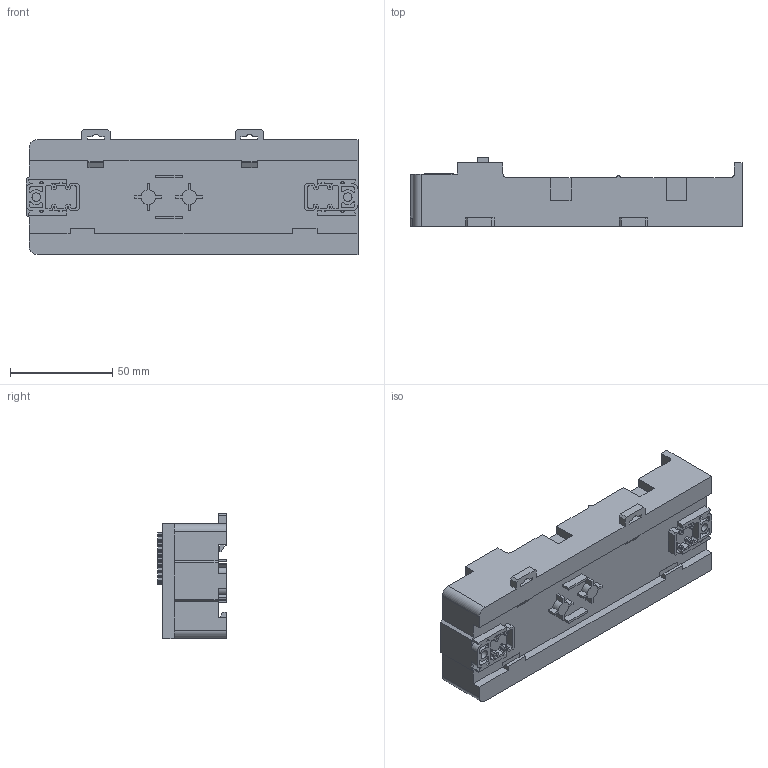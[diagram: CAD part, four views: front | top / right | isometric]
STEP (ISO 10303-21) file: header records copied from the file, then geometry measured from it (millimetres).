
FILE_DESCRIPTION(/* description */ ('STEP AP203'),/* implementation_level */ '2;1');
FILE_NAME(/* name */ 'PN2-S2',/* time_stamp */ '2024-11-15T09:28:14+01:00',/* author */ ('License CC BY-ND 4.0'),/* organization */ ('CADENAS'),/* preprocessor_version */ 'ST-DEVELOPER v19.3',/* originating_system */ 'PARTsolutions',/* authorisation */ ' ');
FILE_SCHEMA (('CONFIG_CONTROL_DESIGN'));
Length unit declared in the file: millimetre
Products named in the file (1): PN2-S2
Bounding box: 162 x 33.45 x 61 mm (x, y, z)
Volume: 200004 mm3; surface area: 40264.4 mm2
Topology: 1 solids, 1 shells, 787 faces, 2226 edges, 1478 vertices
Faces by surface type: plane 612, cylinder 175
Full cylindrical faces by diameter (mm): 4.2 x2
Entity records: 25294 total; most frequent: CARTESIAN_POINT 4490, ORIENTED_EDGE 4448, DIRECTION 4150, EDGE_CURVE 2224, LINE 1874, VECTOR 1874, VERTEX_POINT 1478, AXIS2_PLACEMENT_3D 1138
